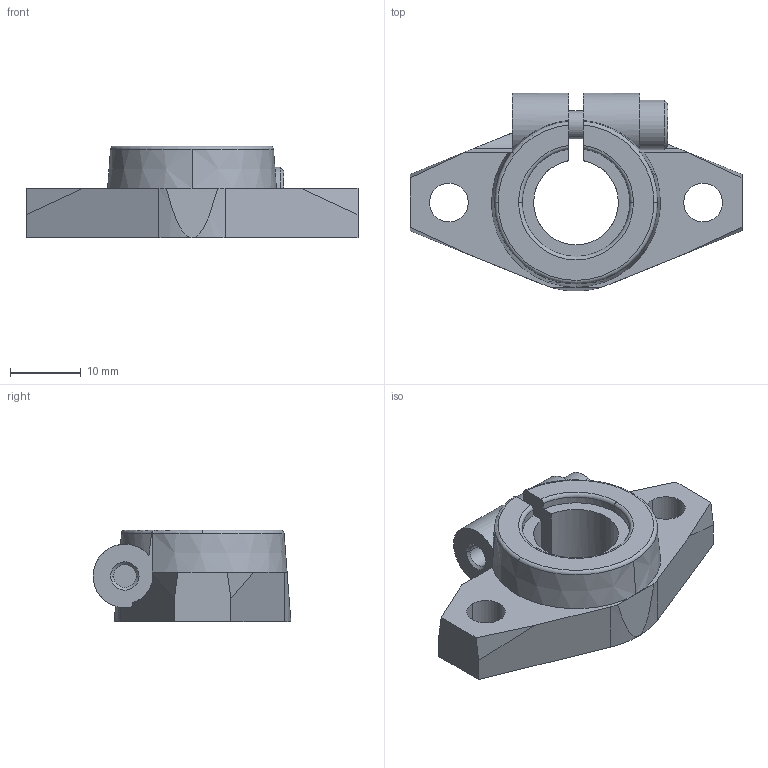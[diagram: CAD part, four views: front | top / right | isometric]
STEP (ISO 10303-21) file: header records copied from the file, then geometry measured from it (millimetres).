
FILE_DESCRIPTION (( 'STEP AP214' ), '1' );
FILE_NAME ('2.7120 Akselin päätykiinnike SHF12.STEP', '2024-06-04T12:21:59', ( '' ), ( '' ), 'SwSTEP 2.0', 'SolidWorks 2024', '' );
FILE_SCHEMA (( 'AUTOMOTIVE_DESIGN' ));
Length unit declared in the file: millimetre
Products named in the file (1): 2.7120 Akselin päätykiinnike SHF12
Bounding box: 47 x 28 x 13 mm (x, y, z)
Volume: 6812.2 mm3; surface area: 3664.1 mm2
Topology: 1 solids, 1 shells, 76 faces, 204 edges, 133 vertices
Faces by surface type: plane 33, cylinder 26, torus 9, cone 8
Entity records: 2538 total; most frequent: CARTESIAN_POINT 604, ORIENTED_EDGE 408, DIRECTION 403, EDGE_CURVE 204, AXIS2_PLACEMENT_3D 154, VERTEX_POINT 133, LINE 95, VECTOR 95
